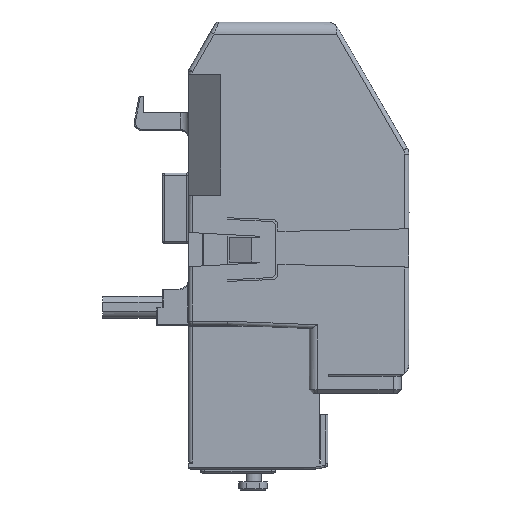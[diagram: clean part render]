
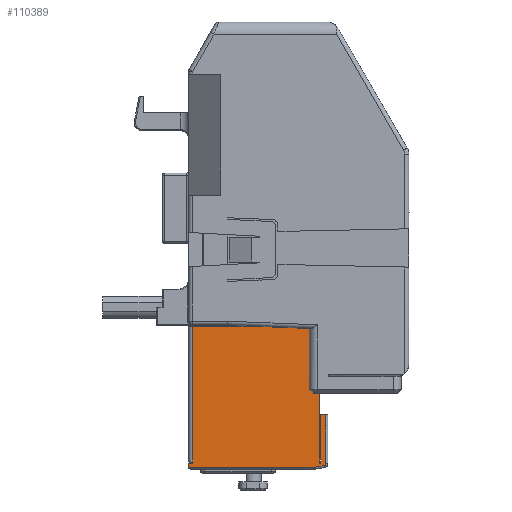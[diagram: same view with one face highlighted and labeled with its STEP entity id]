
A CAD part, left-side view. The second image highlights one B-rep face of the part: STEP entity #110389.
In plain terms, the highlighted planar face has unit normal (-1, 0, 0).
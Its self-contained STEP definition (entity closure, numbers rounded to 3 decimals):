
#16388=DIRECTION('',(0.,-1.,0.));
#16389=VECTOR('',#16388,1.);
#16390=CARTESIAN_POINT('',(-37.88,46.502,
-52.5));
#16391=LINE('',#16390,#16389);
#16588=DIRECTION('',(0.,0.,1.));
#16589=VECTOR('',#16588,34.);
#16590=CARTESIAN_POINT('',(-37.88,45.502,
-52.5));
#16591=LINE('',#16590,#16589);
#16607=DIRECTION('',(0.,-1.,0.));
#16608=VECTOR('',#16607,13.775);
#16609=CARTESIAN_POINT('',(-37.88,45.502,
-18.5));
#16610=LINE('',#16609,#16608);
#16623=CARTESIAN_POINT('',(-37.88,31.727,
-18.5));
#17110=DIRECTION('',(0.,0.,-1.));
#17111=VECTOR('',#17110,13.2);
#17112=CARTESIAN_POINT('',(-37.88,16.502,
-19.1));
#17113=LINE('',#17112,#17111);
#17130=DIRECTION('',(0.,-1.,0.));
#17131=VECTOR('',#17130,2.6);
#17132=CARTESIAN_POINT('',(-37.88,16.502,
-32.3));
#17133=LINE('',#17132,#17131);
#24284=DIRECTION('',(0.,0.,-1.));
#24285=VECTOR('',#24284,17.2);
#24286=CARTESIAN_POINT('',(-37.88,13.902,
-35.3));
#24287=LINE('',#24286,#24285);
#24408=DIRECTION('',(0.,-1.,0.));
#24409=VECTOR('',#24408,0.2);
#24410=CARTESIAN_POINT('',(-37.88,13.902,
-52.5));
#24411=LINE('',#24410,#24409);
#26644=DIRECTION('',(0.,-1.,0.));
#26645=VECTOR('',#26644,1.3);
#26646=CARTESIAN_POINT('',(-37.88,13.702,
-40.5));
#26647=LINE('',#26646,#26645);
#26666=DIRECTION('',(0.,-0.999,-0.039));
#26667=VECTOR('',#26666,15.237);
#26668=CARTESIAN_POINT('',(-37.88,31.727,
-18.5));
#26669=LINE('',#26668,#26667);
#26670=CARTESIAN_POINT('',(-37.88,12.902,
-52.653));
#26671=DIRECTION('',(-1.,0.,0.));
#26672=DIRECTION('',(0.,-0.164,
-0.986));
#26673=AXIS2_PLACEMENT_3D('',#26670,#26671,#26672);
#26675=DIRECTION('',(0.,-0.986,0.164));
#26676=VECTOR('',#26675,2.153);
#26677=CARTESIAN_POINT('',(-37.88,14.944,
-53.5));
#26678=LINE('',#26677,#26676);
#26679=DIRECTION('',(0.,0.,-1.));
#26680=VECTOR('',#26679,3.);
#26681=CARTESIAN_POINT('',(-37.88,13.902,
-32.3));
#26682=LINE('',#26681,#26680);
#26699=DIRECTION('',(0.,0.,1.));
#26700=VECTOR('',#26699,12.);
#26701=CARTESIAN_POINT('',(-37.88,13.702,
-52.5));
#26702=LINE('',#26701,#26700);
#27227=DIRECTION('',(0.,0.,-1.));
#27228=VECTOR('',#27227,12.153);
#27229=CARTESIAN_POINT('',(-37.88,12.402,
-40.5));
#27230=LINE('',#27229,#27228);
#27273=DIRECTION('',(0.,1.,0.));
#27274=VECTOR('',#27273,31.559);
#27275=CARTESIAN_POINT('',(-37.88,14.944,
-53.5));
#27276=LINE('',#27275,#27274);
#31504=DIRECTION('',(0.,0.,1.));
#31505=VECTOR('',#31504,1.);
#31506=CARTESIAN_POINT('',(-37.88,46.502,
-53.5));
#31507=LINE('',#31506,#31505);
#54387=CARTESIAN_POINT('',(-37.88,46.502,
-53.5));
#54388=VERTEX_POINT('',#54387);
#54389=CARTESIAN_POINT('',(-37.88,46.502,
-52.5));
#54390=VERTEX_POINT('',#54389);
#54479=CARTESIAN_POINT('',(-37.88,13.702,
-52.5));
#54481=VERTEX_POINT('',#54479);
#54579=CARTESIAN_POINT('',(-37.88,13.702,
-40.5));
#54580=VERTEX_POINT('',#54579);
#54629=CARTESIAN_POINT('',(-37.88,12.402,
-40.5));
#54630=VERTEX_POINT('',#54629);
#54647=CARTESIAN_POINT('',(-37.88,14.944,
-53.5));
#54648=VERTEX_POINT('',#54647);
#54649=CARTESIAN_POINT('',(-37.88,12.82,
-53.146));
#54650=VERTEX_POINT('',#54649);
#54651=CARTESIAN_POINT('',(-37.88,12.402,
-52.653));
#54652=VERTEX_POINT('',#54651);
#61006=CARTESIAN_POINT('',(-37.88,16.502,
-19.1));
#61008=VERTEX_POINT('',#61006);
#61010=CARTESIAN_POINT('',(-37.88,16.502,
-32.3));
#61011=VERTEX_POINT('',#61010);
#63926=CARTESIAN_POINT('',(-37.88,13.902,
-52.5));
#63928=VERTEX_POINT('',#63926);
#64311=CARTESIAN_POINT('',(-37.88,13.902,
-32.3));
#64313=VERTEX_POINT('',#64311);
#64382=CARTESIAN_POINT('',(-37.88,13.902,
-35.3));
#64384=VERTEX_POINT('',#64382);
#66174=CARTESIAN_POINT('',(-37.88,45.502,
-18.5));
#66175=VERTEX_POINT('',#66174);
#66425=CARTESIAN_POINT('',(-37.88,45.502,
-52.5));
#66427=VERTEX_POINT('',#66425);
#66555=VERTEX_POINT('',#16623);
#110359=CARTESIAN_POINT('',(-37.88,12.902,
-52.653));
#110360=DIRECTION('',(-1.,0.,0.));
#110361=DIRECTION('',(0.,0.,-1.));
#110362=AXIS2_PLACEMENT_3D('',#110359,#110360,#110361);
#110363=PLANE('',#110362);
#110364=ORIENTED_EDGE('',*,*,#95211,.T.);
#110365=ORIENTED_EDGE('',*,*,#95472,.T.);
#110366=ORIENTED_EDGE('',*,*,#95513,.T.);
#110367=ORIENTED_EDGE('',*,*,#95541,.T.);
#110368=ORIENTED_EDGE('',*,*,#96260,.T.);
#110369=ORIENTED_EDGE('',*,*,#96316,.T.);
#110371=ORIENTED_EDGE('',*,*,#110370,.T.);
#110372=ORIENTED_EDGE('',*,*,#108656,.T.);
#110373=ORIENTED_EDGE('',*,*,#108732,.T.);
#110375=ORIENTED_EDGE('',*,*,#110374,.T.);
#110376=ORIENTED_EDGE('',*,*,#110339,.T.);
#110378=ORIENTED_EDGE('',*,*,#110377,.T.);
#110380=ORIENTED_EDGE('',*,*,#110379,.F.);
#110382=ORIENTED_EDGE('',*,*,#110381,.F.);
#110384=ORIENTED_EDGE('',*,*,#110383,.T.);
#110386=ORIENTED_EDGE('',*,*,#110385,.T.);
#110387=EDGE_LOOP('',(#110364,#110365,#110366,#110367,#110368,#110369,#110371,
#110372,#110373,#110375,#110376,#110378,#110380,#110382,#110384,#110386));
#110388=FACE_OUTER_BOUND('',#110387,.F.);
#110389=ADVANCED_FACE('',(#110388),#110363,.T.);
#26674=CIRCLE('',#26673,0.5);
#95211=EDGE_CURVE('',#54390,#66427,#16391,.T.);
#95472=EDGE_CURVE('',#66427,#66175,#16591,.T.);
#95513=EDGE_CURVE('',#66175,#66555,#16610,.T.);
#95541=EDGE_CURVE('',#66555,#61008,#26669,.T.);
#96260=EDGE_CURVE('',#61008,#61011,#17113,.T.);
#96316=EDGE_CURVE('',#61011,#64313,#17133,.T.);
#108656=EDGE_CURVE('',#64384,#63928,#24287,.T.);
#108732=EDGE_CURVE('',#63928,#54481,#24411,.T.);
#110339=EDGE_CURVE('',#54580,#54630,#26647,.T.);
#110370=EDGE_CURVE('',#64313,#64384,#26682,.T.);
#110374=EDGE_CURVE('',#54481,#54580,#26702,.T.);
#110377=EDGE_CURVE('',#54630,#54652,#27230,.T.);
#110379=EDGE_CURVE('',#54650,#54652,#26674,.T.);
#110381=EDGE_CURVE('',#54648,#54650,#26678,.T.);
#110383=EDGE_CURVE('',#54648,#54388,#27276,.T.);
#110385=EDGE_CURVE('',#54388,#54390,#31507,.T.);
